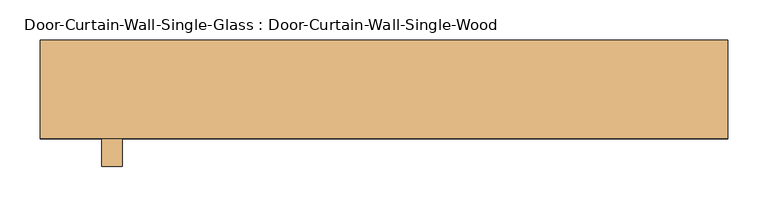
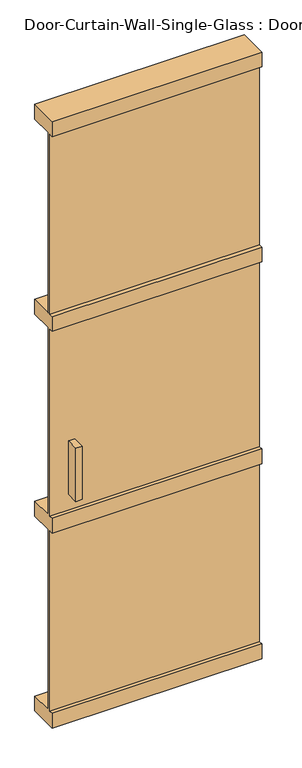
"""IFC4 building model written with IfcOpenShell, lengths in millimetres: door geometry, Door-Curtain-Wall-Single-Glass : Door-Curtain-Wall-Single-Wood."""

from ifc_helpers import new_model, si_unit, frame, origin, place, context, project, spatial, polyline, outline, extrude, source, transform, mapped, element, save


def door_curtain_wall_single_glass_door_curtain_wall_single_wood_52bd217a(model_context):
    return source(origin(), model_context, "Body", "SweptSolid", [
        extrude(outline(polyline([(-323.8242905, 12.7), (-323.8242905, -38.1), (-349.2242905, -38.1), (-349.2242905, 12.7), (-323.8242905, 12.7)])), frame((0.0, 0.0, 965.2), z_axis=(0.0, 0.0, 1.0), x_axis=(1.0, 0.0, 0.0)), (0.0, 0.0, 1.0), 228.6),
        extrude(outline(polyline([(-349.2242905, -101.6), (-349.2242905, -50.8), (-323.8242905, -50.8), (-323.8242905, -101.6), (-349.2242905, -101.6)])), frame((0.0, 0.0, 965.2), z_axis=(0.0, 0.0, 1.0), x_axis=(1.0, 0.0, 0.0)), (0.0, 0.0, 1.0), 228.6),
        extrude(outline(polyline([(54.4331618, 2597.7570075), (54.4331618, 2534.2570075), (-38.1, 2534.2570075), (-38.1, 1762.7320075), (54.4331618, 1762.7320075), (54.4331618, 1699.2320075), (-38.1, 1699.2320075), (-38.1, 898.525), (54.4331618, 898.525), (54.4331618, 835.025), (-38.1, 835.025), (-38.1, 63.5), (54.4331618, 63.5), (54.4331618, 0.0), (-67.2601642, 0.0), (-67.2601642, 63.5), (-50.8, 63.5), (-50.8, 835.025), (-67.2601642, 835.025), (-67.2601642, 898.525), (-50.8, 898.525), (-50.8, 1699.2320075), (-67.2601642, 1699.2320075), (-67.2601642, 1762.7320075), (-50.8, 1762.7320075), (-50.8, 2534.2570075), (-67.2601642, 2534.2570075), (-67.2601642, 2597.7570075), (54.4331618, 2597.7570075)])), frame((-425.4242905, 0.0, 0.0), z_axis=(1.0, 0.0, 0.0), x_axis=(0.0, 1.0, 0.0)), (0.0, 0.0, 1.0), 850.848581),
    ])


if __name__ == "__main__":
    model = new_model("IFC4")
    model_context = context("Model", 3, world=origin())
    ifc_project = project(units=[si_unit("LENGTHUNIT", "METRE", prefix="MILLI")], contexts=[model_context])
    site = spatial("IfcSite", under=ifc_project)
    building = spatial("IfcBuilding", under=site)
    placement = place(None, origin())
    door_curtain_wall_single_glass_door_curtain_wall_single_wood_shape = door_curtain_wall_single_glass_door_curtain_wall_single_wood_52bd217a(model_context)
    element("IfcDoor", 1, ObjectType="Door-Curtain-Wall-Single-Glass : Door-Curtain-Wall-Single-Wood", at=placement, inside=building, context=model_context, shape_type="MappedRepresentation", body=[
        mapped(door_curtain_wall_single_glass_door_curtain_wall_single_wood_shape, transform((0.0, 0.0, 0.0), x_axis=(1.0, 0.0, 0.0), y_axis=(0.0, 1.0, 0.0), z_axis=(0.0, 0.0, 1.0))),
    ])
    save(model, "model.ifc")
